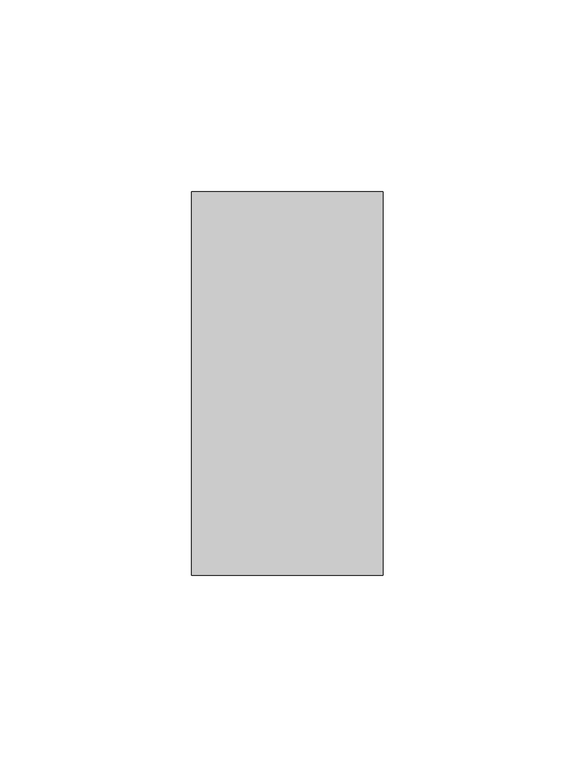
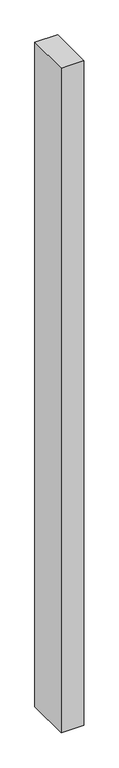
"""IFC4 building model written with IfcOpenShell, lengths in millimetres: member geometry, Прямоугольный импост : 50х100."""

from ifc_helpers import new_model, si_unit, frame, origin, place, context, project, spatial, polyline, outline, extrude, source, transform, mapped, element, save


def member_50a310e9(model_context):
    return source(origin(), model_context, "Body", "SweptSolid", [
        extrude(outline(polyline([(25.0, 50.0), (25.0, -50.0), (-25.0, -50.0), (-25.0, 50.0), (25.0, 50.0)])), frame((0.0, 0.0, -1550.0), z_axis=(0.0, 0.0, 1.0), x_axis=(1.0, 0.0, 0.0)), (0.0, 0.0, 1.0), 1550.0),
    ])


if __name__ == "__main__":
    model = new_model("IFC4")
    model_context = context("Model", 3, world=origin())
    ifc_project = project(units=[si_unit("LENGTHUNIT", "METRE", prefix="MILLI")], contexts=[model_context])
    site = spatial("IfcSite", under=ifc_project)
    building = spatial("IfcBuilding", under=site)
    placement = place(None, origin())
    member_shape = member_50a310e9(model_context)
    element("IfcMember", 1, ObjectType="Прямоугольный импост : 50х100", at=placement, inside=building, context=model_context, shape_type="MappedRepresentation", body=[
        mapped(member_shape, transform((0.0, 0.0, 0.0), x_axis=(1.0, 0.0, 0.0), y_axis=(0.0, 1.0, 0.0), z_axis=(0.0, 0.0, 1.0))),
    ])
    save(model, "model.ifc")
